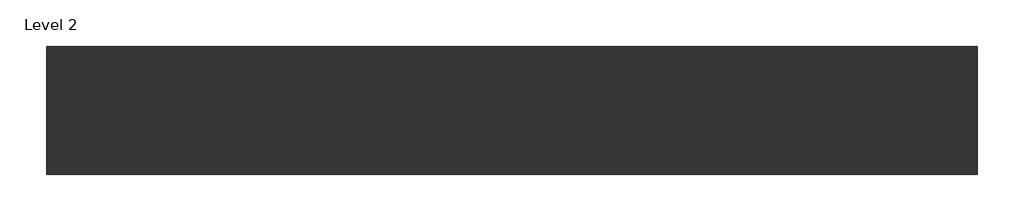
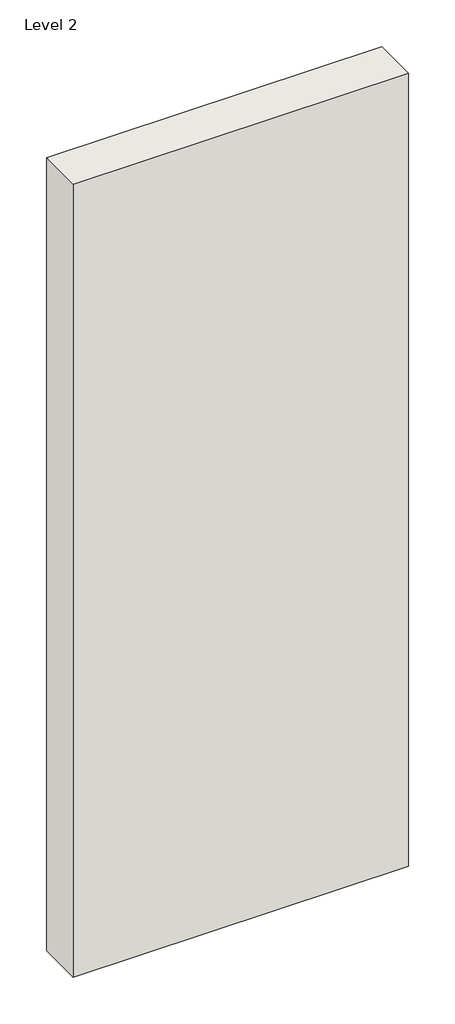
# One storey: 1 wall.
"""IFC4 building model written with IfcOpenShell, lengths in millimetres."""

from ifc_helpers import new_model, si_unit, frame, origin, place, context, project, spatial, polyline, outline, extrude, element, save

model = new_model("IFC4")

# Units and contexts
model_context = context("Model", 3, world=origin())
ifc_project = project(units=[si_unit("LENGTHUNIT", "METRE", prefix="MILLI")], contexts=[model_context])

# Site, building, storey
site = spatial("IfcSite", under=ifc_project)
building = spatial("IfcBuilding", under=site)
storey = spatial("IfcBuildingStorey", under=building, Name="Level 2", Elevation=4000.0)

# Wall
placement = place(None, origin())
element("IfcWall", 1, ObjectType="RIGIPS - 3.22.00 - EI 60, REI 60 - 5500 - 12dB (137.5)", at=placement, inside=storey, context=model_context, shape_type="SweptSolid", body=[
    extrude(outline(polyline([(1000.0, -68.75), (0.0, -68.75), (0.0, 68.75), (1000.0, 68.75), (1000.0, -68.75)])), frame((0.0, 0.0, 4000.0), z_axis=(0.0, 0.0, 1.0), x_axis=(1.0, 0.0, 0.0)), (0.0, 0.0, 1.0), 2500.0),
])

save(model, "model.ifc")
